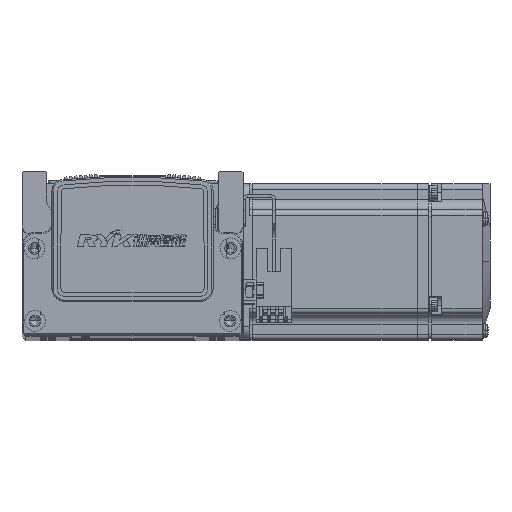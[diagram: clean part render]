
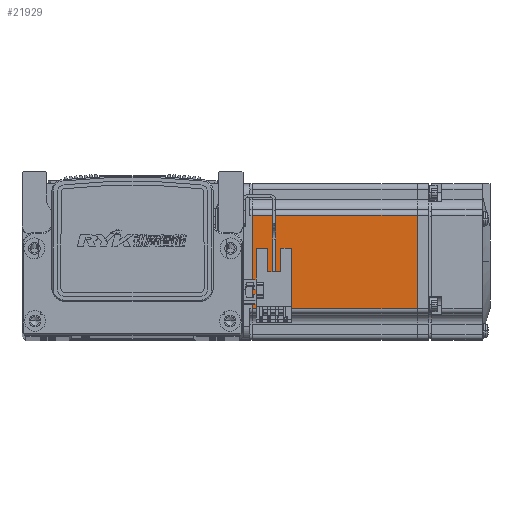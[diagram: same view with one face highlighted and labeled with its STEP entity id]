
A CAD part, top view. The second image highlights one B-rep face of the part: STEP entity #21929.
In plain terms, the highlighted planar face has unit normal (0, 0, 1) as drawn and (0, 0, -1) by its records, which use the part's own axes.
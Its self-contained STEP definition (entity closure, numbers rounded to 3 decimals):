
#1332 = DIRECTION ( 'NONE',  ( 0., -1., 0. ) ) ;
#1369 = CARTESIAN_POINT ( 'NONE',  ( -7.75, 25., -30. ) ) ;
#1383 = DIRECTION ( 'NONE',  ( -1., 0., 0. ) ) ;
#1408 = CARTESIAN_POINT ( 'NONE',  ( -6.5, -18., -30. ) ) ;
#1422 = DIRECTION ( 'NONE',  ( 0., 1., 0. ) ) ;
#1438 = CARTESIAN_POINT ( 'NONE',  ( -6.5, 18., -30. ) ) ;
#1451 = CARTESIAN_POINT ( 'NONE',  ( -70.95, 25., -30. ) ) ;
#1489 = DIRECTION ( 'NONE',  ( 1., 0., 0. ) ) ;
#5094 = EDGE_CURVE ( 'NONE', #45151, #45095, #34435, .T. ) ;
#5115 = EDGE_CURVE ( 'NONE', #45095, #45245, #34498, .T. ) ;
#5156 = EDGE_CURVE ( 'NONE', #45245, #45243, #34567, .T. ) ;
#5173 = EDGE_CURVE ( 'NONE', #45243, #45151, #34690, .T. ) ;
#20220 = FACE_OUTER_BOUND ( 'NONE', #23606, .T. ) ;
#21929 = ADVANCED_FACE ( 'NONE', ( #20220 ), #27080, .T. ) ;
#23606 = EDGE_LOOP ( 'NONE', ( #48223, #48150, #48040, #48000 ) ) ;
#25950 = AXIS2_PLACEMENT_3D ( 'NONE', #27034, #27081, #27007 ) ;
#27007 = DIRECTION ( 'NONE',  ( -1., 0., 0. ) ) ;
#27034 = CARTESIAN_POINT ( 'NONE',  ( -6.5, 25., -30. ) ) ;
#27080 = PLANE ( 'NONE',  #25950 ) ;
#27081 = DIRECTION ( 'NONE',  ( 0., 0., -1. ) ) ;
#34435 = LINE ( 'NONE', #1369, #34441 ) ;
#34441 = VECTOR ( 'NONE', #1332, 1000. ) ;
#34498 = LINE ( 'NONE', #1408, #34500 ) ;
#34500 = VECTOR ( 'NONE', #1383, 1000. ) ;
#34567 = LINE ( 'NONE', #1451, #34569 ) ;
#34569 = VECTOR ( 'NONE', #1422, 1000. ) ;
#34647 = VECTOR ( 'NONE', #1489, 1000. ) ;
#34690 = LINE ( 'NONE', #1438, #34647 ) ;
#45095 = VERTEX_POINT ( 'NONE', #73266 ) ;
#45151 = VERTEX_POINT ( 'NONE', #73454 ) ;
#45243 = VERTEX_POINT ( 'NONE', #73700 ) ;
#45245 = VERTEX_POINT ( 'NONE', #73667 ) ;
#48000 = ORIENTED_EDGE ( 'NONE', *, *, #5173, .T. ) ;
#48040 = ORIENTED_EDGE ( 'NONE', *, *, #5156, .T. ) ;
#48150 = ORIENTED_EDGE ( 'NONE', *, *, #5115, .T. ) ;
#48223 = ORIENTED_EDGE ( 'NONE', *, *, #5094, .T. ) ;
#73266 = CARTESIAN_POINT ( 'NONE',  ( -7.75, -18., -30. ) ) ;
#73454 = CARTESIAN_POINT ( 'NONE',  ( -7.75, 18., -30. ) ) ;
#73667 = CARTESIAN_POINT ( 'NONE',  ( -70.95, -18., -30. ) ) ;
#73700 = CARTESIAN_POINT ( 'NONE',  ( -70.95, 18., -30. ) ) ;
